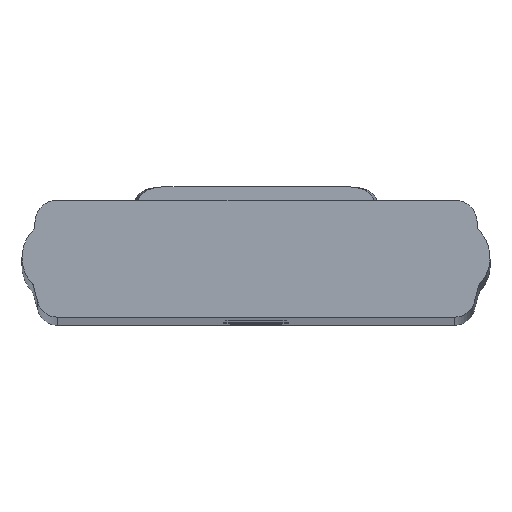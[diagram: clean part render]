
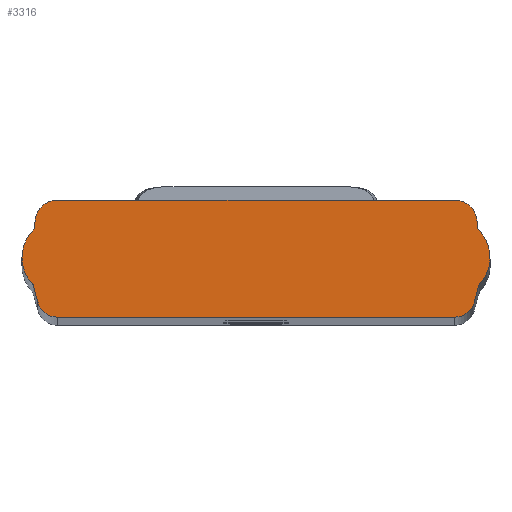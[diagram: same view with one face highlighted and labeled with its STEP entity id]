
A CAD part, top view. The second image highlights one B-rep face of the part: STEP entity #3316.
In plain terms, the highlighted planar face has unit normal (0, 0, 1).
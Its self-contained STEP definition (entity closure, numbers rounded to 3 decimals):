
#129 = CARTESIAN_POINT ( 'NONE',  ( 21.98, 3.542, 443.5 ) ) ;
#133 = DIRECTION ( 'NONE',  ( 1., 0., 0. ) ) ;
#140 = DIRECTION ( 'NONE',  ( 0.259, -0.966, 0. ) ) ;
#157 = CARTESIAN_POINT ( 'NONE',  ( -19.01, 0.53, 443.5 ) ) ;
#177 = CARTESIAN_POINT ( 'NONE',  ( -19.01, 0.53, 443.5 ) ) ;
#209 = CARTESIAN_POINT ( 'NONE',  ( 19.01, 0.53, 443.5 ) ) ;
#273 = CARTESIAN_POINT ( 'NONE',  ( -19.336, -5.278, 443.5 ) ) ;
#283 = DIRECTION ( 'NONE',  ( 1., 0., 0. ) ) ;
#291 = CARTESIAN_POINT ( 'NONE',  ( -21.268, -3.795, 443.5 ) ) ;
#382 = DIRECTION ( 'NONE',  ( 0., 0., 1. ) ) ;
#430 = DIRECTION ( 'NONE',  ( 1., 0., 0. ) ) ;
#543 = DIRECTION ( 'NONE',  ( 0., 0., 1. ) ) ;
#559 = DIRECTION ( 'NONE',  ( 1., 0., 0. ) ) ;
#573 = DIRECTION ( 'NONE',  ( 0., 0., 1. ) ) ;
#623 = DIRECTION ( 'NONE',  ( 0., 0., -1. ) ) ;
#631 = DIRECTION ( 'NONE',  ( 1., 0., 0. ) ) ;
#681 = ORIENTED_EDGE ( 'NONE', *, *, #3599, .T. ) ;
#687 = ORIENTED_EDGE ( 'NONE', *, *, #3553, .T. ) ;
#690 = ORIENTED_EDGE ( 'NONE', *, *, #3448, .T. ) ;
#695 = ORIENTED_EDGE ( 'NONE', *, *, #3781, .T. ) ;
#752 = AXIS2_PLACEMENT_3D ( 'NONE', #4573, #4572, #4756 ) ;
#811 = AXIS2_PLACEMENT_3D ( 'NONE', #177, #543, #559 ) ;
#867 = AXIS2_PLACEMENT_3D ( 'NONE', #5286, #5473, #5383 ) ;
#881 = AXIS2_PLACEMENT_3D ( 'NONE', #5156, #5147, #5362 ) ;
#899 = AXIS2_PLACEMENT_3D ( 'NONE', #5123, #5127, #5479 ) ;
#901 = AXIS2_PLACEMENT_3D ( 'NONE', #4953, #4919, #4951 ) ;
#920 = AXIS2_PLACEMENT_3D ( 'NONE', #157, #573, #133 ) ;
#944 = AXIS2_PLACEMENT_3D ( 'NONE', #4686, #4698, #4675 ) ;
#956 = AXIS2_PLACEMENT_3D ( 'NONE', #129, #623, #631 ) ;
#978 = AXIS2_PLACEMENT_3D ( 'NONE', #4898, #4899, #4900 ) ;
#1007 = AXIS2_PLACEMENT_3D ( 'NONE', #209, #382, #283 ) ;
#1116 = CARTESIAN_POINT ( 'NONE',  ( 21.664, 3.222, 443.5 ) ) ;
#1119 = CARTESIAN_POINT ( 'NONE',  ( 21.53, 3.942, 443.5 ) ) ;
#1145 = CARTESIAN_POINT ( 'NONE',  ( 21.692, -2.213, 443.5 ) ) ;
#1152 = CARTESIAN_POINT ( 'NONE',  ( 21.795, -2.026, 443.5 ) ) ;
#1619 = CARTESIAN_POINT ( 'NONE',  ( 19.336, -3.278, 443.5 ) ) ;
#1626 = PLANE ( 'NONE',  #6150 ) ;
#1628 = DIRECTION ( 'NONE',  ( 0., 0., -1. ) ) ;
#1629 = DIRECTION ( 'NONE',  ( -1., 0., 0. ) ) ;
#1710 = ORIENTED_EDGE ( 'NONE', *, *, #3550, .T. ) ;
#1879 = FACE_OUTER_BOUND ( 'NONE', #3066, .T. ) ;
#2055 = LINE ( 'NONE', #291, #2071 ) ;
#2062 = CIRCLE ( 'NONE', #956, 0.45 ) ;
#2067 = CIRCLE ( 'NONE', #1007, 3.78 ) ;
#2071 = VECTOR ( 'NONE', #140, 1000. ) ;
#2072 = CIRCLE ( 'NONE', #811, 3.78 ) ;
#2197 = LINE ( 'NONE', #273, #2203 ) ;
#2203 = VECTOR ( 'NONE', #430, 1000. ) ;
#2204 = CIRCLE ( 'NONE', #920, 3.78 ) ;
#2274 = CIRCLE ( 'NONE', #899, 0.45 ) ;
#2470 = CIRCLE ( 'NONE', #881, 2.18 ) ;
#2495 = CIRCLE ( 'NONE', #867, 0.45 ) ;
#2537 = LINE ( 'NONE', #4760, #2540 ) ;
#2540 = VECTOR ( 'NONE', #4657, 1000. ) ;
#2542 = CIRCLE ( 'NONE', #944, 2.18 ) ;
#2543 = LINE ( 'NONE', #4693, #2545 ) ;
#2545 = VECTOR ( 'NONE', #4689, 1000. ) ;
#2682 = LINE ( 'NONE', #4750, #2708 ) ;
#2701 = LINE ( 'NONE', #4576, #2702 ) ;
#2702 = VECTOR ( 'NONE', #4793, 1000. ) ;
#2708 = VECTOR ( 'NONE', #4587, 1000. ) ;
#2712 = CIRCLE ( 'NONE', #752, 0.45 ) ;
#2728 = CIRCLE ( 'NONE', #978, 2. ) ;
#2739 = CIRCLE ( 'NONE', #901, 2. ) ;
#3044 = VERTEX_POINT ( 'NONE', #1119 ) ;
#3057 = VERTEX_POINT ( 'NONE', #1116 ) ;
#3066 = EDGE_LOOP ( 'NONE', ( #3400, #3410, #4199, #695, #681, #5087, #687, #4013, #4295, #3406, #1710, #4094, #4059, #3320, #690, #4159, #4300 ) ) ;
#3161 = VERTEX_POINT ( 'NONE', #1145 ) ;
#3189 = VERTEX_POINT ( 'NONE', #1152 ) ;
#3316 = ADVANCED_FACE ( 'NONE', ( #1879 ), #1626, .F. ) ;
#3320 = ORIENTED_EDGE ( 'NONE', *, *, #3982, .T. ) ;
#3400 = ORIENTED_EDGE ( 'NONE', *, *, #3728, .T. ) ;
#3406 = ORIENTED_EDGE ( 'NONE', *, *, #4009, .T. ) ;
#3410 = ORIENTED_EDGE ( 'NONE', *, *, #3978, .T. ) ;
#3443 = EDGE_CURVE ( 'NONE', #3057, #6113, #2062, .T. ) ;
#3448 = EDGE_CURVE ( 'NONE', #3189, #3057, #2067, .T. ) ;
#3450 = EDGE_CURVE ( 'NONE', #4237, #4277, #2055, .T. ) ;
#3453 = EDGE_CURVE ( 'NONE', #5735, #4356, #2072, .T. ) ;
#3550 = EDGE_CURVE ( 'NONE', #4207, #4204, #2197, .T. ) ;
#3553 = EDGE_CURVE ( 'NONE', #4356, #4345, #2204, .T. ) ;
#3599 = EDGE_CURVE ( 'NONE', #5512, #5735, #2274, .T. ) ;
#3728 = EDGE_CURVE ( 'NONE', #3044, #4375, #2470, .T. ) ;
#3746 = EDGE_CURVE ( 'NONE', #4345, #4237, #2495, .T. ) ;
#3781 = EDGE_CURVE ( 'NONE', #5624, #5512, #2537, .T. ) ;
#3784 = EDGE_CURVE ( 'NONE', #4344, #5624, #2542, .T. ) ;
#3785 = EDGE_CURVE ( 'NONE', #4260, #3161, #2543, .T. ) ;
#3975 = EDGE_CURVE ( 'NONE', #6113, #3044, #2701, .T. ) ;
#3978 = EDGE_CURVE ( 'NONE', #4375, #4344, #2682, .T. ) ;
#3982 = EDGE_CURVE ( 'NONE', #3161, #3189, #2712, .T. ) ;
#3994 = EDGE_CURVE ( 'NONE', #4204, #4260, #2728, .T. ) ;
#4009 = EDGE_CURVE ( 'NONE', #4277, #4207, #2739, .T. ) ;
#4013 = ORIENTED_EDGE ( 'NONE', *, *, #3746, .T. ) ;
#4059 = ORIENTED_EDGE ( 'NONE', *, *, #3785, .T. ) ;
#4094 = ORIENTED_EDGE ( 'NONE', *, *, #3994, .T. ) ;
#4159 = ORIENTED_EDGE ( 'NONE', *, *, #3443, .T. ) ;
#4199 = ORIENTED_EDGE ( 'NONE', *, *, #3784, .T. ) ;
#4204 = VERTEX_POINT ( 'NONE', #4941 ) ;
#4207 = VERTEX_POINT ( 'NONE', #4847 ) ;
#4237 = VERTEX_POINT ( 'NONE', #5083 ) ;
#4260 = VERTEX_POINT ( 'NONE', #5072 ) ;
#4277 = VERTEX_POINT ( 'NONE', #5047 ) ;
#4295 = ORIENTED_EDGE ( 'NONE', *, *, #3450, .T. ) ;
#4300 = ORIENTED_EDGE ( 'NONE', *, *, #3975, .T. ) ;
#4344 = VERTEX_POINT ( 'NONE', #4996 ) ;
#4345 = VERTEX_POINT ( 'NONE', #4994 ) ;
#4356 = VERTEX_POINT ( 'NONE', #4961 ) ;
#4375 = VERTEX_POINT ( 'NONE', #4950 ) ;
#4572 = DIRECTION ( 'NONE',  ( 0., 0., -1. ) ) ;
#4573 = CARTESIAN_POINT ( 'NONE',  ( 22.127, -2.33, 443.5 ) ) ;
#4576 = CARTESIAN_POINT ( 'NONE',  ( 21.53, 3.542, 443.5 ) ) ;
#4587 = DIRECTION ( 'NONE',  ( -1., 0., 0. ) ) ;
#4657 = DIRECTION ( 'NONE',  ( 0., -1., 0. ) ) ;
#4675 = DIRECTION ( 'NONE',  ( 1., 0., 0. ) ) ;
#4686 = CARTESIAN_POINT ( 'NONE',  ( -19.35, 3.942, 443.5 ) ) ;
#4689 = DIRECTION ( 'NONE',  ( 0.259, 0.966, 0. ) ) ;
#4693 = CARTESIAN_POINT ( 'NONE',  ( 21.268, -3.795, 443.5 ) ) ;
#4698 = DIRECTION ( 'NONE',  ( 0., 0., 1. ) ) ;
#4750 = CARTESIAN_POINT ( 'NONE',  ( -19.5, 6.117, 443.5 ) ) ;
#4756 = DIRECTION ( 'NONE',  ( 1., 0., 0. ) ) ;
#4760 = CARTESIAN_POINT ( 'NONE',  ( -21.53, 3.542, 443.5 ) ) ;
#4793 = DIRECTION ( 'NONE',  ( 0., 1., 0. ) ) ;
#4847 = CARTESIAN_POINT ( 'NONE',  ( -19.336, -5.278, 443.5 ) ) ;
#4894 = CARTESIAN_POINT ( 'NONE',  ( -21.664, 3.222, 443.5 ) ) ;
#4898 = CARTESIAN_POINT ( 'NONE',  ( 19.336, -3.278, 443.5 ) ) ;
#4899 = DIRECTION ( 'NONE',  ( 0., 0., 1. ) ) ;
#4900 = DIRECTION ( 'NONE',  ( -1., 0., 0. ) ) ;
#4903 = CARTESIAN_POINT ( 'NONE',  ( -21.53, 3.942, 443.5 ) ) ;
#4913 = CARTESIAN_POINT ( 'NONE',  ( -21.53, 3.542, 443.5 ) ) ;
#4916 = CARTESIAN_POINT ( 'NONE',  ( 21.53, 3.542, 443.5 ) ) ;
#4919 = DIRECTION ( 'NONE',  ( 0., 0., 1. ) ) ;
#4941 = CARTESIAN_POINT ( 'NONE',  ( 19.336, -5.278, 443.5 ) ) ;
#4950 = CARTESIAN_POINT ( 'NONE',  ( 19.5, 6.117, 443.5 ) ) ;
#4951 = DIRECTION ( 'NONE',  ( 1., 0., 0. ) ) ;
#4953 = CARTESIAN_POINT ( 'NONE',  ( -19.336, -3.278, 443.5 ) ) ;
#4961 = CARTESIAN_POINT ( 'NONE',  ( -22.79, 0.53, 443.5 ) ) ;
#4994 = CARTESIAN_POINT ( 'NONE',  ( -21.795, -2.026, 443.5 ) ) ;
#4996 = CARTESIAN_POINT ( 'NONE',  ( -19.5, 6.117, 443.5 ) ) ;
#5047 = CARTESIAN_POINT ( 'NONE',  ( -21.268, -3.795, 443.5 ) ) ;
#5072 = CARTESIAN_POINT ( 'NONE',  ( 21.268, -3.795, 443.5 ) ) ;
#5083 = CARTESIAN_POINT ( 'NONE',  ( -21.692, -2.213, 443.5 ) ) ;
#5087 = ORIENTED_EDGE ( 'NONE', *, *, #3453, .T. ) ;
#5123 = CARTESIAN_POINT ( 'NONE',  ( -21.98, 3.542, 443.5 ) ) ;
#5127 = DIRECTION ( 'NONE',  ( 0., 0., -1. ) ) ;
#5147 = DIRECTION ( 'NONE',  ( 0., 0., 1. ) ) ;
#5156 = CARTESIAN_POINT ( 'NONE',  ( 19.35, 3.942, 443.5 ) ) ;
#5286 = CARTESIAN_POINT ( 'NONE',  ( -22.127, -2.33, 443.5 ) ) ;
#5362 = DIRECTION ( 'NONE',  ( 1., 0., 0. ) ) ;
#5383 = DIRECTION ( 'NONE',  ( 1., 0., 0. ) ) ;
#5473 = DIRECTION ( 'NONE',  ( 0., 0., -1. ) ) ;
#5479 = DIRECTION ( 'NONE',  ( 1., 0., 0. ) ) ;
#5512 = VERTEX_POINT ( 'NONE', #4913 ) ;
#5624 = VERTEX_POINT ( 'NONE', #4903 ) ;
#5735 = VERTEX_POINT ( 'NONE', #4894 ) ;
#6113 = VERTEX_POINT ( 'NONE', #4916 ) ;
#6150 = AXIS2_PLACEMENT_3D ( 'NONE', #1619, #1628, #1629 ) ;
